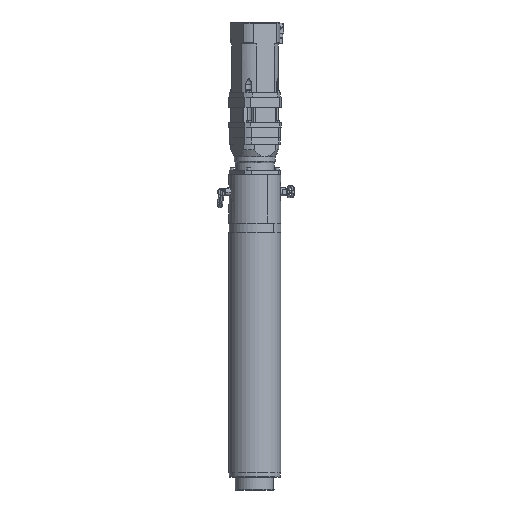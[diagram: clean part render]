
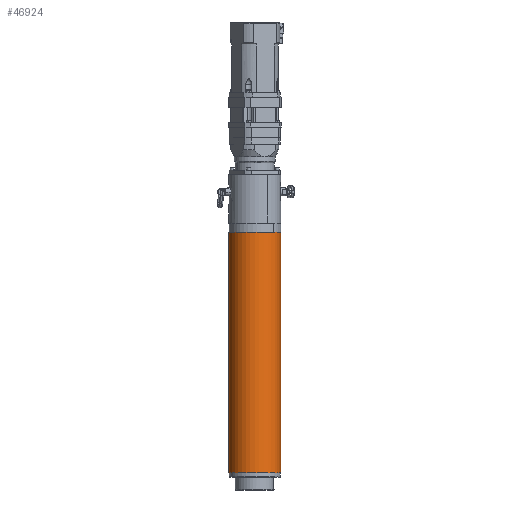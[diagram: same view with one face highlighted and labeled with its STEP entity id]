
A CAD part, front view. The second image highlights one B-rep face of the part: STEP entity #46924.
In plain terms, the highlighted cylindrical face has radius 120 mm (diameter 240 mm), a partial arc.
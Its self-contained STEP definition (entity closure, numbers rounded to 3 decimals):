
#11147 = DIRECTION ( 'NONE',  ( 0., 0., -1. ) ) ;
#12502 = EDGE_LOOP ( 'NONE', ( #37472, #55218, #48243, #24271 ) ) ;
#14724 = CARTESIAN_POINT ( 'NONE',  ( 120., 0., -372.5 ) ) ;
#19259 = LINE ( 'NONE', #14724, #70559 ) ;
#21807 = DIRECTION ( 'NONE',  ( 0., 0., -1. ) ) ;
#22898 = CARTESIAN_POINT ( 'NONE',  ( 0., 0., -352.5 ) ) ;
#24271 = ORIENTED_EDGE ( 'NONE', *, *, #72460, .F. ) ;
#27114 = CARTESIAN_POINT ( 'NONE',  ( 0., 0., -372.5 ) ) ;
#30284 = EDGE_CURVE ( 'NONE', #36799, #46849, #19259, .T. ) ;
#31222 = VERTEX_POINT ( 'NONE', #53567 ) ;
#34334 = CIRCLE ( 'NONE', #34398, 120. ) ;
#34398 = AXIS2_PLACEMENT_3D ( 'NONE', #40371, #46345, #69255 ) ;
#35638 = CARTESIAN_POINT ( 'NONE',  ( 120., 0., 764. ) ) ;
#36799 = VERTEX_POINT ( 'NONE', #35638 ) ;
#37472 = ORIENTED_EDGE ( 'NONE', *, *, #30284, .F. ) ;
#38076 = CIRCLE ( 'NONE', #63284, 120. ) ;
#38786 = DIRECTION ( 'NONE',  ( 0., 0., -1. ) ) ;
#39175 = CARTESIAN_POINT ( 'NONE',  ( -120., 0., -372.5 ) ) ;
#40371 = CARTESIAN_POINT ( 'NONE',  ( 0., 0., 764. ) ) ;
#41999 = EDGE_CURVE ( 'NONE', #36799, #51150, #34334, .T. ) ;
#44187 = DIRECTION ( 'NONE',  ( -1., 0., 0. ) ) ;
#44842 = LINE ( 'NONE', #39175, #61715 ) ;
#46345 = DIRECTION ( 'NONE',  ( 0., 0., -1. ) ) ;
#46849 = VERTEX_POINT ( 'NONE', #65210 ) ;
#46924 = ADVANCED_FACE ( 'NONE', ( #55372 ), #50520, .T. ) ;
#47816 = AXIS2_PLACEMENT_3D ( 'NONE', #27114, #21807, #44187 ) ;
#48041 = DIRECTION ( 'NONE',  ( 0., 0., -1. ) ) ;
#48243 = ORIENTED_EDGE ( 'NONE', *, *, #52304, .T. ) ;
#50520 = CYLINDRICAL_SURFACE ( 'NONE', #47816, 120. ) ;
#51150 = VERTEX_POINT ( 'NONE', #65456 ) ;
#52304 = EDGE_CURVE ( 'NONE', #51150, #31222, #44842, .T. ) ;
#53567 = CARTESIAN_POINT ( 'NONE',  ( -120., 0., -352.5 ) ) ;
#55218 = ORIENTED_EDGE ( 'NONE', *, *, #41999, .T. ) ;
#55372 = FACE_OUTER_BOUND ( 'NONE', #12502, .T. ) ;
#57201 = DIRECTION ( 'NONE',  ( -1., 0., 0. ) ) ;
#61715 = VECTOR ( 'NONE', #38786, 1000. ) ;
#63284 = AXIS2_PLACEMENT_3D ( 'NONE', #22898, #11147, #57201 ) ;
#65210 = CARTESIAN_POINT ( 'NONE',  ( 120., 0., -352.5 ) ) ;
#65456 = CARTESIAN_POINT ( 'NONE',  ( -120., 0., 764. ) ) ;
#69255 = DIRECTION ( 'NONE',  ( -1., 0., 0. ) ) ;
#70559 = VECTOR ( 'NONE', #48041, 1000. ) ;
#72460 = EDGE_CURVE ( 'NONE', #46849, #31222, #38076, .T. ) ;
